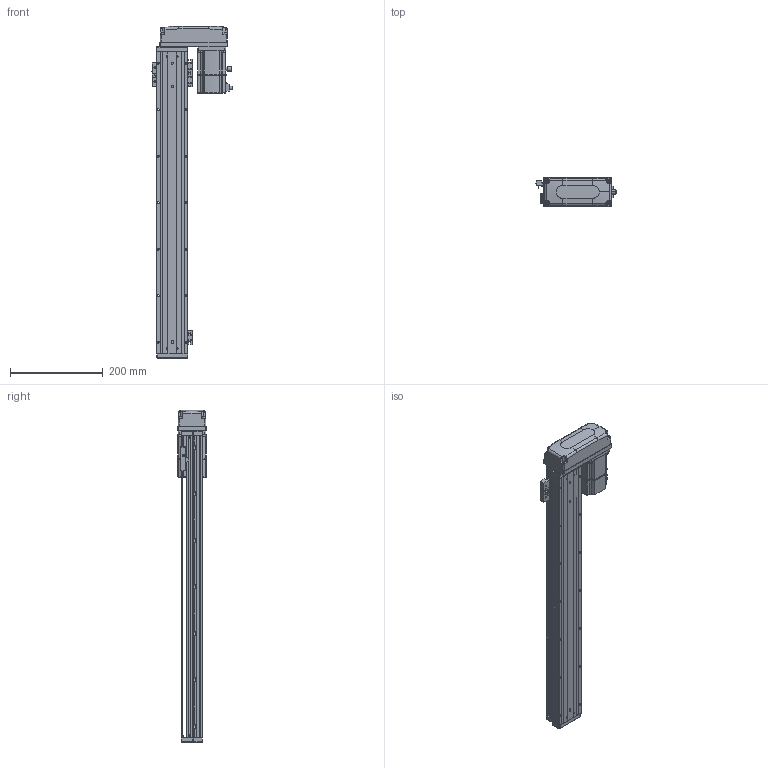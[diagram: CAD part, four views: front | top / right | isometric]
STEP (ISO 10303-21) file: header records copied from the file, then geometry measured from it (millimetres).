
FILE_DESCRIPTION (( 'STEP AP203' ), '1' );
FILE_NAME ('KTHA60-550-BL-M20-C4L.step', '2022-12-16T01:32:49', ( '微软用户' ), ( '微软中国' ), 'SwSTEP 2.0', 'SolidWorks 2020', '' );
FILE_SCHEMA (( 'CONFIG_CONTROL_DESIGN' ));
Length unit declared in the file: millimetre
Products named in the file (17): GBT 70.3-M3℅6; CTHA60-016; KTHA60-001_650; EE_SX911P_R; KTHA60-002; KTHA60-004; CTHA60-017; BTH80-026; KTHA60-005; CTHA60-021; CTHA60-006-2_CTHA60-006-2; GB¨uT 70.2-M3¡Á5_M3¡Á6; GBT 70.1-M4×16; _X2_4E0983F1_X0_200W_1; GBT77-2000M3-3; KTHA60-550-BL-M20-C4L; GBT 70.1-M3℅6
Assembly tree (51 placements, depth 2):
  KTHA60-550-BL-M20-C4L
    KTHA60-001_650
    KTHA60-004
    KTHA60-005
    GB¨uT 70.2-M3¡Á5_M3¡Á6  x6
    GBT 70.3-M3℅6  x4
    EE_SX911P_R  x3
    CTHA60-017  x3
    CTHA60-021  x2
    GBT 70.1-M4×16  x8
    GBT77-2000M3-3  x6
    GBT 70.1-M3℅6  x10
    CTHA60-016  x2
    KTHA60-002
    BTH80-026
    CTHA60-006-2_CTHA60-006-2
    _X2_4E0983F1_X0_200W_1
Bounding box: 172.1 x 62.42 x 714 mm (x, y, z)
Volume: 1552766.2 mm3; surface area: 410690.5 mm2
Topology: 54 solids, 54 shells, 2448 faces, 5829 edges, 3586 vertices
Faces by surface type: plane 1297, cylinder 650, cone 284, bspline 109, torus 92, sphere 16
Entity records: 45532 total; most frequent: CARTESIAN_POINT 10594, ORIENTED_EDGE 6706, DIRECTION 6698, EDGE_CURVE 3353, AXIS2_PLACEMENT_3D 2309, VERTEX_POINT 2095, LINE 2080, VECTOR 2080
